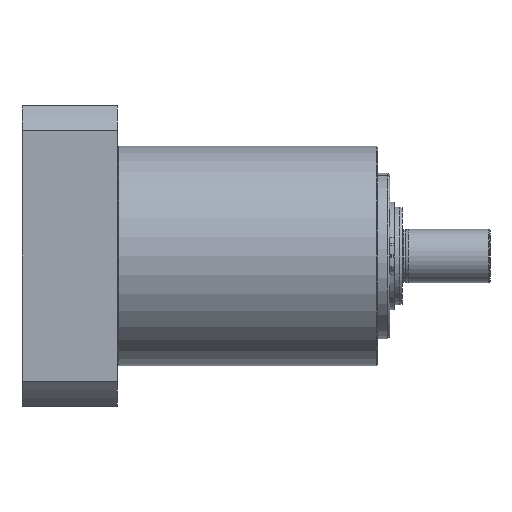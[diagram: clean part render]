
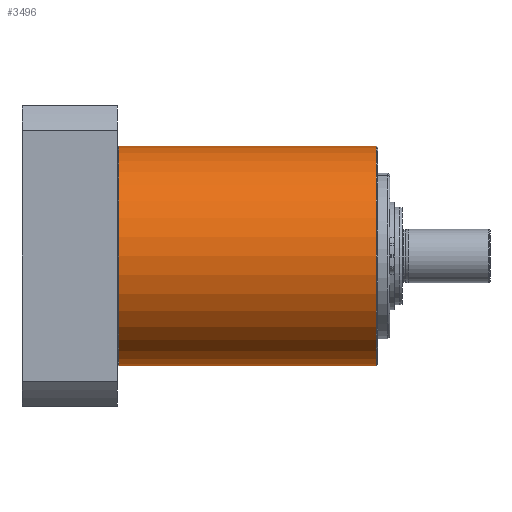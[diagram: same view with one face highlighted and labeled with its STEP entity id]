
A CAD part, front view. The second image highlights one B-rep face of the part: STEP entity #3496.
In plain terms, the highlighted cylindrical face has radius 45 mm (diameter 90 mm), a partial arc.
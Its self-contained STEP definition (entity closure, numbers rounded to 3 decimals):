
#46 = VERTEX_POINT ( 'NONE', #4894 ) ;
#633 = EDGE_CURVE ( 'NONE', #11395, #11231, #7442, .T. ) ;
#641 = DIRECTION ( 'NONE',  ( 0., 0., -1. ) ) ;
#752 = CARTESIAN_POINT ( 'NONE',  ( 0.5, 0., 0. ) ) ;
#861 = CIRCLE ( 'NONE', #9255, 45. ) ;
#1008 = ORIENTED_EDGE ( 'NONE', *, *, #6645, .T. ) ;
#1322 = EDGE_CURVE ( 'NONE', #4793, #11231, #12209, .T. ) ;
#1391 = ORIENTED_EDGE ( 'NONE', *, *, #1322, .T. ) ;
#1948 = VECTOR ( 'NONE', #2667, 1000. ) ;
#2406 = CARTESIAN_POINT ( 'NONE',  ( 52.368, 0., 45. ) ) ;
#2423 = ORIENTED_EDGE ( 'NONE', *, *, #633, .F. ) ;
#2478 = CARTESIAN_POINT ( 'NONE',  ( 0.5, 0., 45. ) ) ;
#2667 = DIRECTION ( 'NONE',  ( 1., 0., 0. ) ) ;
#3344 = FACE_OUTER_BOUND ( 'NONE', #4450, .T. ) ;
#3493 = VECTOR ( 'NONE', #10895, 1000. ) ;
#3496 = ADVANCED_FACE ( 'NONE', ( #3344 ), #8265, .T. ) ;
#4130 = CARTESIAN_POINT ( 'NONE',  ( 106., 0., 0. ) ) ;
#4165 = CARTESIAN_POINT ( 'NONE',  ( 52.368, 0., -45. ) ) ;
#4450 = EDGE_LOOP ( 'NONE', ( #2423, #1008, #10708, #1391 ) ) ;
#4526 = DIRECTION ( 'NONE',  ( 0., 0., -1. ) ) ;
#4793 = VERTEX_POINT ( 'NONE', #5876 ) ;
#4894 = CARTESIAN_POINT ( 'NONE',  ( 0.5, 0., -45. ) ) ;
#5106 = LINE ( 'NONE', #4165, #3493 ) ;
#5876 = CARTESIAN_POINT ( 'NONE',  ( 106., 0., -45. ) ) ;
#6097 = AXIS2_PLACEMENT_3D ( 'NONE', #6409, #11013, #641 ) ;
#6336 = DIRECTION ( 'NONE',  ( 1., 0., 0. ) ) ;
#6409 = CARTESIAN_POINT ( 'NONE',  ( 52.368, 0., 0. ) ) ;
#6645 = EDGE_CURVE ( 'NONE', #11395, #46, #861, .T. ) ;
#6904 = DIRECTION ( 'NONE',  ( -1., 0., 0. ) ) ;
#7442 = LINE ( 'NONE', #2406, #1948 ) ;
#8197 = AXIS2_PLACEMENT_3D ( 'NONE', #4130, #6904, #9766 ) ;
#8265 = CYLINDRICAL_SURFACE ( 'NONE', #6097, 45. ) ;
#9071 = CARTESIAN_POINT ( 'NONE',  ( 106., 0., 45. ) ) ;
#9255 = AXIS2_PLACEMENT_3D ( 'NONE', #752, #6336, #4526 ) ;
#9766 = DIRECTION ( 'NONE',  ( 0., 0., 1. ) ) ;
#10708 = ORIENTED_EDGE ( 'NONE', *, *, #12027, .T. ) ;
#10895 = DIRECTION ( 'NONE',  ( 1., 0., 0. ) ) ;
#11013 = DIRECTION ( 'NONE',  ( 1., 0., 0. ) ) ;
#11231 = VERTEX_POINT ( 'NONE', #9071 ) ;
#11395 = VERTEX_POINT ( 'NONE', #2478 ) ;
#12027 = EDGE_CURVE ( 'NONE', #46, #4793, #5106, .T. ) ;
#12209 = CIRCLE ( 'NONE', #8197, 45. ) ;
